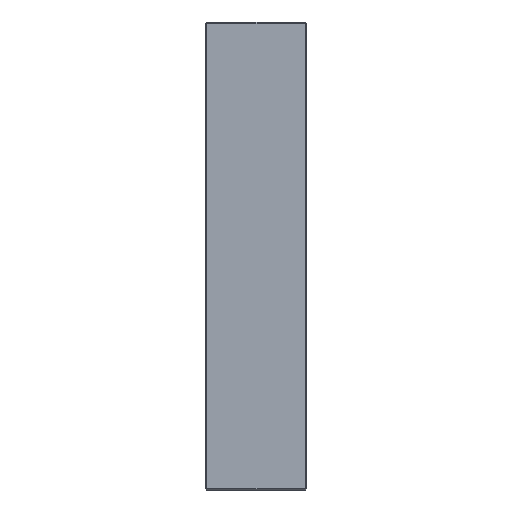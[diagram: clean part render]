
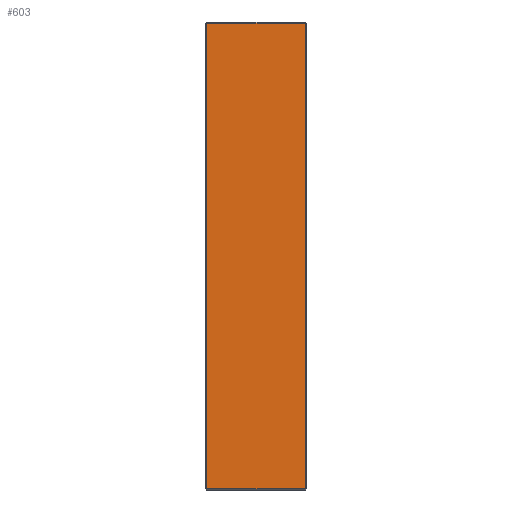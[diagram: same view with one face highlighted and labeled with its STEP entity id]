
A CAD part, left-side view. The second image highlights one B-rep face of the part: STEP entity #603.
In plain terms, the highlighted planar face has unit normal (-1, 0, 0).
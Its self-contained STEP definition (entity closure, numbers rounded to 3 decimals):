
#30 = ORIENTED_EDGE ( 'NONE', *, *, #86, .T. ) ;
#54 = LINE ( 'NONE', #716, #1611 ) ;
#66 = CARTESIAN_POINT ( 'NONE',  ( -223., 1., 222. ) ) ;
#79 = ORIENTED_EDGE ( 'NONE', *, *, #1679, .T. ) ;
#86 = EDGE_CURVE ( 'NONE', #112, #129, #1906, .T. ) ;
#107 = ORIENTED_EDGE ( 'NONE', *, *, #938, .T. ) ;
#112 = VERTEX_POINT ( 'NONE', #66 ) ;
#129 = VERTEX_POINT ( 'NONE', #283 ) ;
#162 = CARTESIAN_POINT ( 'NONE',  ( -223., 96., -222. ) ) ;
#194 = CARTESIAN_POINT ( 'NONE',  ( -223., 1., -222. ) ) ;
#275 = LINE ( 'NONE', #1279, #686 ) ;
#283 = CARTESIAN_POINT ( 'NONE',  ( -223., 95., 222. ) ) ;
#323 = VECTOR ( 'NONE', #730, 1000. ) ;
#568 = DIRECTION ( 'NONE',  ( 0., 0., 1. ) ) ;
#603 = ADVANCED_FACE ( 'NONE', ( #1543 ), #1642, .F. ) ;
#663 = ORIENTED_EDGE ( 'NONE', *, *, #1251, .T. ) ;
#668 = EDGE_LOOP ( 'NONE', ( #30, #107, #663, #79 ) ) ;
#686 = VECTOR ( 'NONE', #1293, 1000. ) ;
#716 = CARTESIAN_POINT ( 'NONE',  ( -223., 1., 223. ) ) ;
#730 = DIRECTION ( 'NONE',  ( 0., -1., 0. ) ) ;
#733 = LINE ( 'NONE', #162, #323 ) ;
#938 = EDGE_CURVE ( 'NONE', #129, #1777, #275, .T. ) ;
#1161 = AXIS2_PLACEMENT_3D ( 'NONE', #1594, #1427, #1379 ) ;
#1212 = VERTEX_POINT ( 'NONE', #194 ) ;
#1251 = EDGE_CURVE ( 'NONE', #1777, #1212, #733, .T. ) ;
#1279 = CARTESIAN_POINT ( 'NONE',  ( -223., 95., 223. ) ) ;
#1293 = DIRECTION ( 'NONE',  ( 0., 0., -1. ) ) ;
#1379 = DIRECTION ( 'NONE',  ( 0., 0., -1. ) ) ;
#1393 = VECTOR ( 'NONE', #1775, 1000. ) ;
#1427 = DIRECTION ( 'NONE',  ( 1., 0., 0. ) ) ;
#1543 = FACE_OUTER_BOUND ( 'NONE', #668, .T. ) ;
#1594 = CARTESIAN_POINT ( 'NONE',  ( -223., 96., 223. ) ) ;
#1611 = VECTOR ( 'NONE', #568, 1000. ) ;
#1642 = PLANE ( 'NONE',  #1161 ) ;
#1679 = EDGE_CURVE ( 'NONE', #1212, #112, #54, .T. ) ;
#1717 = CARTESIAN_POINT ( 'NONE',  ( -223., 95., -222. ) ) ;
#1768 = CARTESIAN_POINT ( 'NONE',  ( -223., 96., 222. ) ) ;
#1775 = DIRECTION ( 'NONE',  ( 0., 1., 0. ) ) ;
#1777 = VERTEX_POINT ( 'NONE', #1717 ) ;
#1906 = LINE ( 'NONE', #1768, #1393 ) ;
